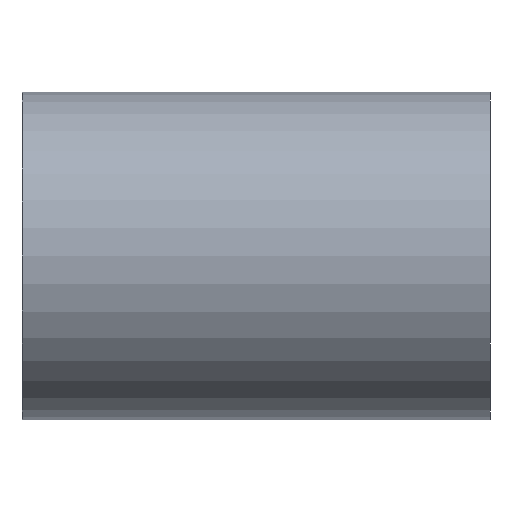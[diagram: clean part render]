
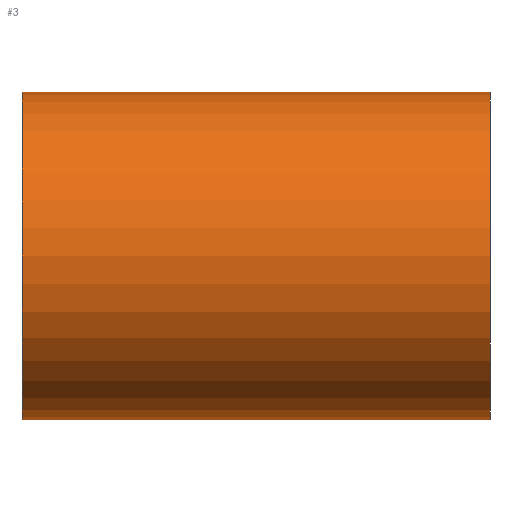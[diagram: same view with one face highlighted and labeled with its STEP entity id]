
A CAD part, left-side view. The second image highlights one B-rep face of the part: STEP entity #3.
In plain terms, the highlighted cylindrical face has radius 7 mm (diameter 14 mm), a partial arc.
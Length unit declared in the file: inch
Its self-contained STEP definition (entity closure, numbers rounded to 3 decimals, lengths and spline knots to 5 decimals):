
#3 = ADVANCED_FACE ( 'NONE', ( #302 ), #327, .T. ) ;
#28 = DIRECTION ( 'NONE',  ( 0., -1., 0. ) ) ;
#34 = LINE ( 'NONE', #174, #419 ) ;
#43 = VECTOR ( 'NONE', #28, 39.37008 ) ;
#133 = ORIENTED_EDGE ( 'NONE', *, *, #248, .F. ) ;
#137 = ORIENTED_EDGE ( 'NONE', *, *, #216, .T. ) ;
#153 = CIRCLE ( 'NONE', #589, 0.27559 ) ;
#164 = EDGE_CURVE ( 'NONE', #645, #296, #34, .T. ) ;
#174 = CARTESIAN_POINT ( 'NONE',  ( 0., 0.3937, 0.27559 ) ) ;
#182 = ORIENTED_EDGE ( 'NONE', *, *, #186, .T. ) ;
#186 = EDGE_CURVE ( 'NONE', #399, #550, #535, .T. ) ;
#216 = EDGE_CURVE ( 'NONE', #550, #296, #153, .T. ) ;
#226 = CIRCLE ( 'NONE', #283, 0.27559 ) ;
#248 = EDGE_CURVE ( 'NONE', #399, #645, #226, .T. ) ;
#263 = CARTESIAN_POINT ( 'NONE',  ( 0., 0.7874, -0.27559 ) ) ;
#273 = CARTESIAN_POINT ( 'NONE',  ( 0., 0., -0.27559 ) ) ;
#283 = AXIS2_PLACEMENT_3D ( 'NONE', #638, #392, #584 ) ;
#296 = VERTEX_POINT ( 'NONE', #480 ) ;
#302 = FACE_OUTER_BOUND ( 'NONE', #407, .T. ) ;
#313 = CARTESIAN_POINT ( 'NONE',  ( 0., 0.7874, 0.27559 ) ) ;
#320 = DIRECTION ( 'NONE',  ( 0., 0., -1. ) ) ;
#327 = CYLINDRICAL_SURFACE ( 'NONE', #506, 0.27559 ) ;
#390 = CARTESIAN_POINT ( 'NONE',  ( 0., 0.3937, -0.27559 ) ) ;
#392 = DIRECTION ( 'NONE',  ( 0., 1., 0. ) ) ;
#399 = VERTEX_POINT ( 'NONE', #263 ) ;
#407 = EDGE_LOOP ( 'NONE', ( #494, #133, #182, #137 ) ) ;
#419 = VECTOR ( 'NONE', #632, 39.37008 ) ;
#439 = CARTESIAN_POINT ( 'NONE',  ( 0., 0., 0. ) ) ;
#470 = CARTESIAN_POINT ( 'NONE',  ( 0., 0.3937, 0. ) ) ;
#480 = CARTESIAN_POINT ( 'NONE',  ( 0., 0., 0.27559 ) ) ;
#494 = ORIENTED_EDGE ( 'NONE', *, *, #164, .F. ) ;
#506 = AXIS2_PLACEMENT_3D ( 'NONE', #470, #564, #320 ) ;
#535 = LINE ( 'NONE', #390, #43 ) ;
#537 = DIRECTION ( 'NONE',  ( 0., 0., 1. ) ) ;
#550 = VERTEX_POINT ( 'NONE', #273 ) ;
#564 = DIRECTION ( 'NONE',  ( 0., -1., 0. ) ) ;
#584 = DIRECTION ( 'NONE',  ( 0., 0., 1. ) ) ;
#589 = AXIS2_PLACEMENT_3D ( 'NONE', #439, #630, #537 ) ;
#630 = DIRECTION ( 'NONE',  ( 0., 1., 0. ) ) ;
#632 = DIRECTION ( 'NONE',  ( 0., -1., 0. ) ) ;
#638 = CARTESIAN_POINT ( 'NONE',  ( 0., 0.7874, 0. ) ) ;
#645 = VERTEX_POINT ( 'NONE', #313 ) ;
